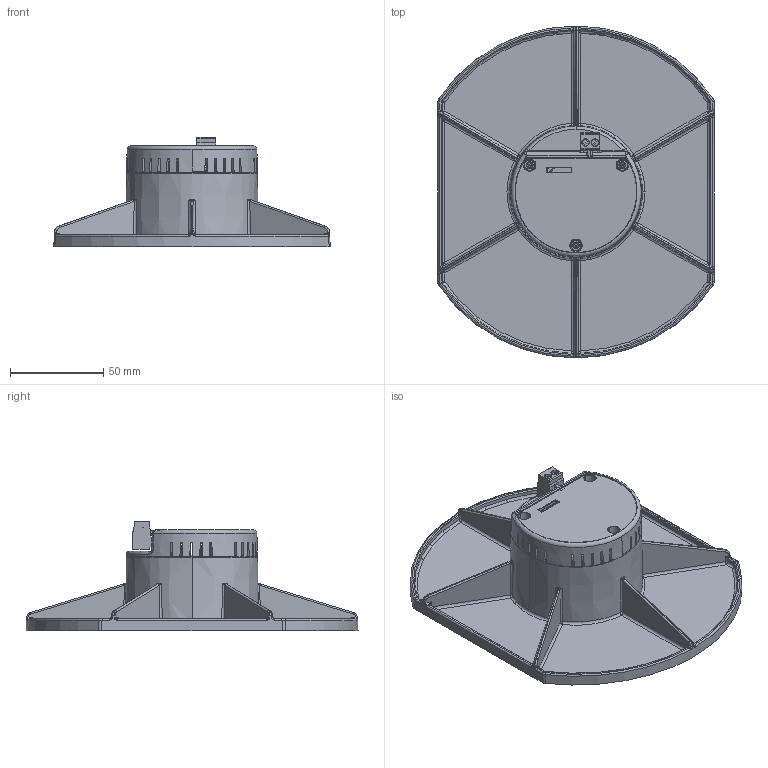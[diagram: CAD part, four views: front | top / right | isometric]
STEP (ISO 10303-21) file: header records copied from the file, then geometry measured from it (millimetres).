
FILE_DESCRIPTION (( 'STEP AP203' ), '1' );
FILE_NAME ('sms-hdn-v3_asm.STEP', '2020-10-21T14:41:25', ( 'scaryzero0@hotmail.com' ), ( '' ), 'SwSTEP 2.0', 'SolidWorks 2018', '' );
FILE_SCHEMA (( 'CONFIG_CONTROL_DESIGN' ));
Length unit declared in the file: millimetre
Products named in the file (5): 5_08-2P-F-1-KF2EDG.stp; sms-hdn-v3_asm; sms-hdn-v3_asm.stp; SMS-HDN_20170927B-V3.stp; CAP_SMS-HDN_20170929A-V3.stp
Assembly tree (4 placements, depth 3):
  sms-hdn-v3_asm
    sms-hdn-v3_asm.stp
      SMS-HDN_20170927B-V3.stp
      CAP_SMS-HDN_20170929A-V3.stp
      5_08-2P-F-1-KF2EDG.stp
Bounding box: 148 x 177.8 x 58.41 mm (x, y, z)
Volume: 118027.3 mm3; surface area: 93942.9 mm2
Topology: 3 solids, 3 shells, 1586 faces, 3900 edges, 2262 vertices
Faces by surface type: bspline 438, plane 366, cylinder 335, torus 232, cone 113, sphere 102
Entity records: 84986 total; most frequent: CARTESIAN_POINT 51723, ORIENTED_EDGE 7620, DIRECTION 5674, EDGE_CURVE 3810, AXIS2_PLACEMENT_3D 2301, VERTEX_POINT 2252, EDGE_LOOP 1622, ADVANCED_FACE 1585
